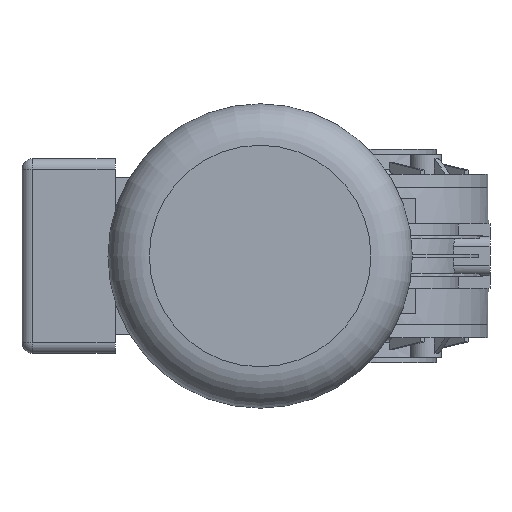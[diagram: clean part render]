
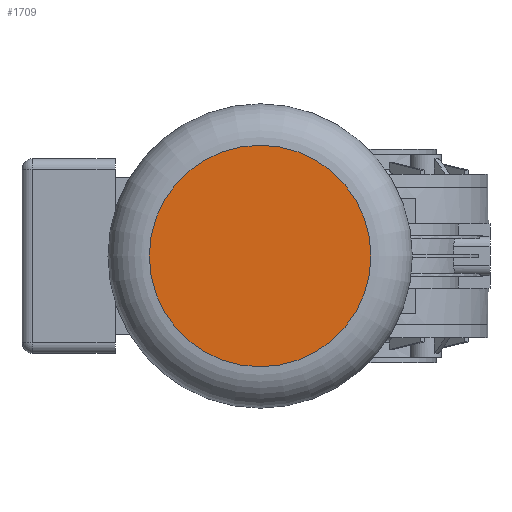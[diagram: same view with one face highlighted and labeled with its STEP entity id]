
A CAD part, left-side view. The second image highlights one B-rep face of the part: STEP entity #1709.
In plain terms, the highlighted planar face has unit normal (-1, 0, 0).
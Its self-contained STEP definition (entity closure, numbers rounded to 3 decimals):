
#1709 = ADVANCED_FACE( '', ( #3983 ), #3984, .T. );
#3983 = FACE_OUTER_BOUND( '', #6808, .T. );
#3984 = PLANE( '', #6809 );
#6808 = EDGE_LOOP( '', ( #11883 ) );
#6809 = AXIS2_PLACEMENT_3D( '', #11884, #11885, #11886 );
#11883 = ORIENTED_EDGE( '', *, *, #17452, .T. );
#11884 = CARTESIAN_POINT( '', ( -299., 50., 0. ) );
#11885 = DIRECTION( '', ( -1., 0., 0. ) );
#11886 = DIRECTION( '', ( 0., 1., 0. ) );
#17452 = EDGE_CURVE( '', #21333, #21333, #21334, .T. );
#21333 = VERTEX_POINT( '', #27052 );
#21334 = CIRCLE( '', #27053, 53.5 );
#27052 = CARTESIAN_POINT( '', ( -299., 103.5, 0. ) );
#27053 = AXIS2_PLACEMENT_3D( '', #33168, #33169, #33170 );
#33168 = CARTESIAN_POINT( '', ( -299., 50., 0. ) );
#33169 = DIRECTION( '', ( -1., 0., 0. ) );
#33170 = DIRECTION( '', ( 0., 1., 0. ) );
